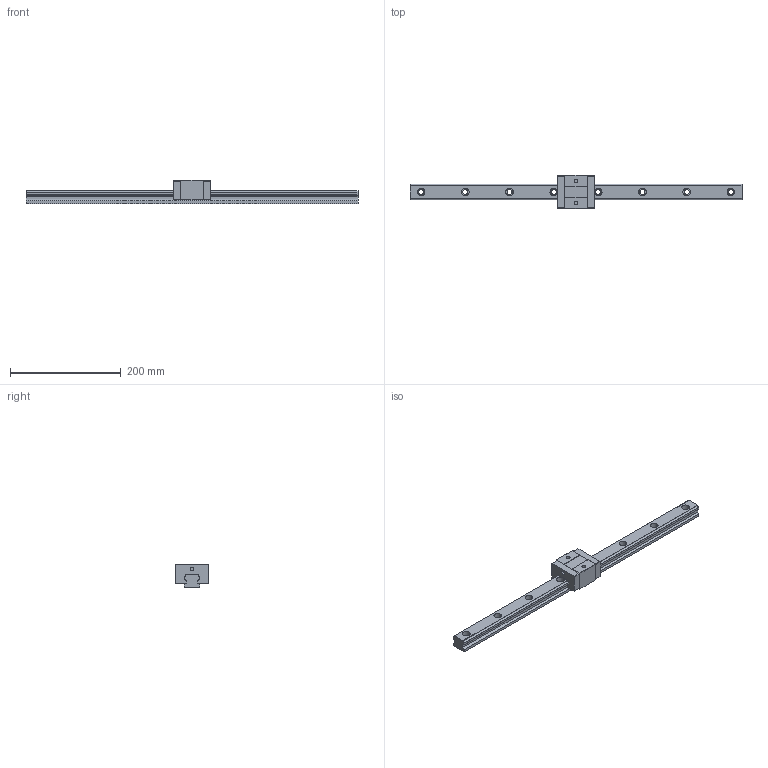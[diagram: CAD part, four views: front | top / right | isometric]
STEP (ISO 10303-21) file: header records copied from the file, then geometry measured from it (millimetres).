
FILE_DESCRIPTION (( 'STEP AP203' ), '1' );
FILE_NAME ('TRS30VS-XNC.STEP', '2024-08-16T07:24:52', ( '' ), ( '' ), 'SwSTEP 2.0', 'SolidWorks 2021', '' );
FILE_SCHEMA (( 'CONFIG_CONTROL_DESIGN' ));
Length unit declared in the file: millimetre
Products named in the file (1): TRS30VS-XNC
Bounding box: 600 x 60 x 42 mm (x, y, z)
Volume: 431573 mm3; surface area: 85883 mm2
Topology: 1 solids, 1 shells, 156 faces, 428 edges, 284 vertices
Faces by surface type: plane 80, cylinder 76
Entity records: 5105 total; most frequent: DIRECTION 894, CARTESIAN_POINT 869, ORIENTED_EDGE 856, EDGE_CURVE 428, AXIS2_PLACEMENT_3D 309, VERTEX_POINT 284, LINE 276, VECTOR 276
